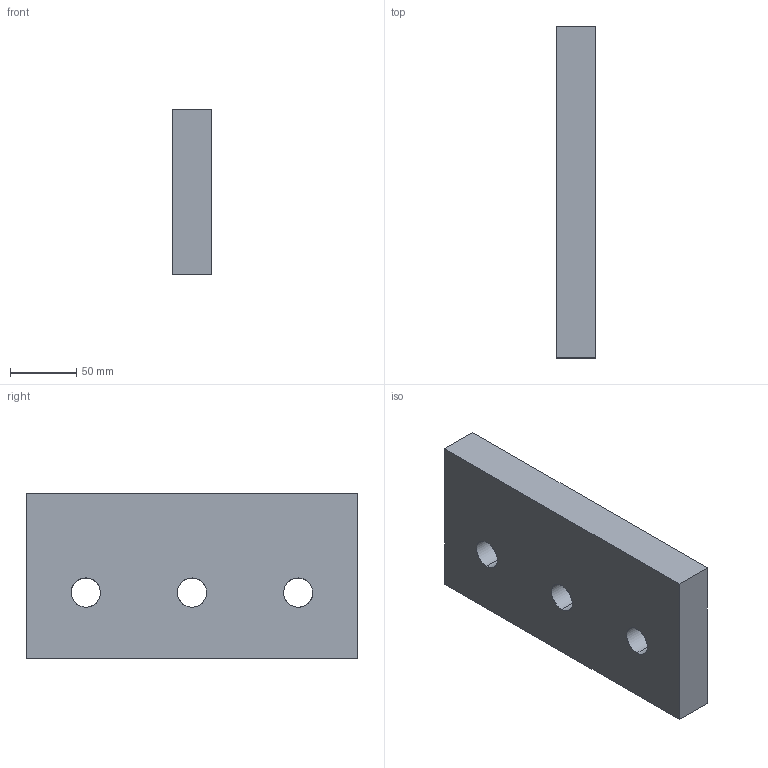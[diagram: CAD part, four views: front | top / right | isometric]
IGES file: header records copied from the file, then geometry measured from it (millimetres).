
Start section: START RECORD GO HERE.
Global section: file name: A612-125-250.igs; native system: DASSAULT SYSTEMES CATIA V5 R20 - www.3ds.com; preprocessor: CATIA Version 5 Release 20 ; author: Utente; organization: NB04-ASUS; date: 20200414.151324; units: millimetre
Bounding box: 30 x 250 x 125 mm (x, y, z)
Surface area: 88939.6 mm2 (no closed solid volume)
Topology: 0 solids, 0 shells, 12 faces, 60 edges, 60 vertices
Faces by surface type: extrusion 6, revolution 6
